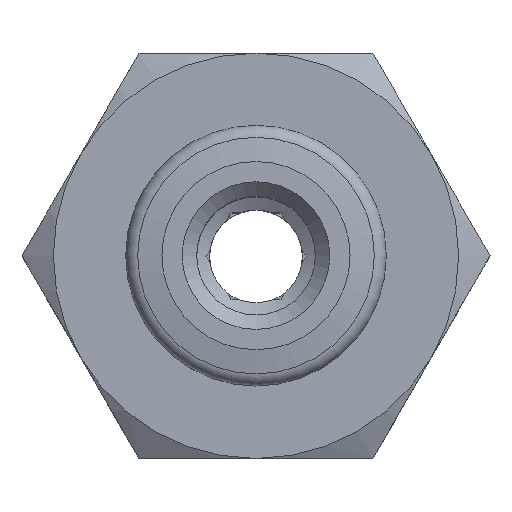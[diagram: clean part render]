
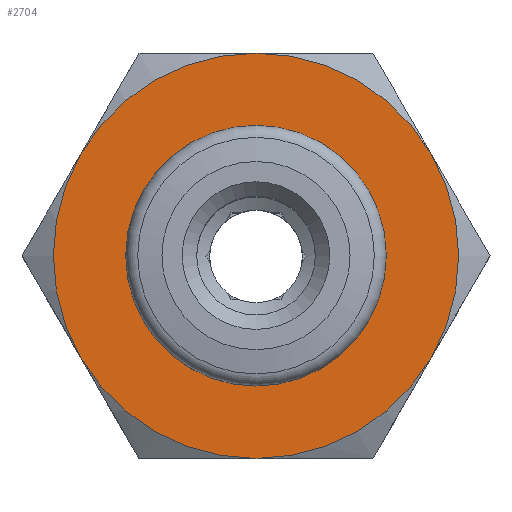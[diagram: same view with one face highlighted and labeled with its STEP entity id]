
A CAD part, top view. The second image highlights one B-rep face of the part: STEP entity #2704.
In plain terms, the highlighted planar face has unit normal (0, 0, 1) as drawn and (0, 1, 0) by its records, which use the part's own axes.
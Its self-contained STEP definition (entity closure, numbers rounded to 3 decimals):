
#1495=ORIENTED_EDGE('',*,*,#1871,.T.);
#1496=ORIENTED_EDGE('',*,*,#1872,.T.);
#1497=ORIENTED_EDGE('',*,*,#1873,.T.);
#1498=ORIENTED_EDGE('',*,*,#1874,.T.);
#1499=ORIENTED_EDGE('',*,*,#1875,.T.);
#1500=ORIENTED_EDGE('',*,*,#1876,.T.);
#1501=ORIENTED_EDGE('',*,*,#1877,.F.);
#1722=CIRCLE('',#2534,7.);
#1723=CIRCLE('',#2536,7.);
#1724=CIRCLE('',#2537,7.);
#1725=CIRCLE('',#2538,7.);
#1726=CIRCLE('',#2539,7.);
#1727=CIRCLE('',#2540,7.);
#1728=CIRCLE('',#2541,4.5);
#1777=VERTEX_POINT('',#2800);
#1778=VERTEX_POINT('',#2804);
#1781=VERTEX_POINT('',#2814);
#1782=VERTEX_POINT('',#2816);
#1783=VERTEX_POINT('',#2818);
#1784=VERTEX_POINT('',#2820);
#1785=VERTEX_POINT('',#2823);
#1871=EDGE_CURVE('',#1778,#1777,#1722,.T.);
#1872=EDGE_CURVE('',#1777,#1781,#1723,.T.);
#1873=EDGE_CURVE('',#1781,#1782,#1724,.T.);
#1874=EDGE_CURVE('',#1782,#1783,#1725,.T.);
#1875=EDGE_CURVE('',#1783,#1784,#1726,.T.);
#1876=EDGE_CURVE('',#1784,#1778,#1727,.T.);
#1877=EDGE_CURVE('',#1785,#1785,#1728,.T.);
#1983=EDGE_LOOP('',(#1495,#1496,#1497,#1498,#1499,#1500));
#1984=EDGE_LOOP('',(#1501));
#2077=FACE_BOUND('',#1983,.T.);
#2078=FACE_BOUND('',#1984,.T.);
#2214=DIRECTION('',(0.,1.,0.));
#2215=DIRECTION('',(0.,0.,7.));
#2216=DIRECTION('',(0.,1.,0.));
#2217=DIRECTION('',(1.,0.,0.));
#2218=DIRECTION('',(0.,1.,0.));
#2219=DIRECTION('',(6.062,0.,3.5));
#2220=DIRECTION('',(0.,1.,0.));
#2221=DIRECTION('',(6.062,0.,-3.5));
#2222=DIRECTION('',(0.,1.,0.));
#2223=DIRECTION('',(0.,0.,-7.));
#2224=DIRECTION('',(0.,1.,0.));
#2225=DIRECTION('',(-6.062,0.,-3.5));
#2226=DIRECTION('',(0.,1.,0.));
#2227=DIRECTION('',(-6.062,0.,3.5));
#2228=DIRECTION('',(0.,1.,0.));
#2229=DIRECTION('',(4.5,0.,0.));
#2534=AXIS2_PLACEMENT_3D('',#2812,#2214,#2215);
#2535=AXIS2_PLACEMENT_3D('',#2813,#2216,#2217);
#2536=AXIS2_PLACEMENT_3D('',#2815,#2218,#2219);
#2537=AXIS2_PLACEMENT_3D('',#2817,#2220,#2221);
#2538=AXIS2_PLACEMENT_3D('',#2819,#2222,#2223);
#2539=AXIS2_PLACEMENT_3D('',#2821,#2224,#2225);
#2540=AXIS2_PLACEMENT_3D('',#2822,#2226,#2227);
#2541=AXIS2_PLACEMENT_3D('',#2824,#2228,#2229);
#2669=PLANE('',#2535);
#2704=ADVANCED_FACE('',(#2077,#2078),#2669,.T.);
#2800=CARTESIAN_POINT('',(6.062,18.5,3.5));
#2804=CARTESIAN_POINT('',(0.,18.5,7.));
#2812=CARTESIAN_POINT('',(0.,18.5,0.));
#2813=CARTESIAN_POINT('',(0.,18.5,7.));
#2814=CARTESIAN_POINT('',(6.062,18.5,-3.5));
#2815=CARTESIAN_POINT('',(0.,18.5,0.));
#2816=CARTESIAN_POINT('',(0.,18.5,-7.));
#2817=CARTESIAN_POINT('',(0.,18.5,0.));
#2818=CARTESIAN_POINT('',(-6.062,18.5,-3.5));
#2819=CARTESIAN_POINT('',(0.,18.5,0.));
#2820=CARTESIAN_POINT('',(-6.062,18.5,3.5));
#2821=CARTESIAN_POINT('',(0.,18.5,0.));
#2822=CARTESIAN_POINT('',(0.,18.5,0.));
#2823=CARTESIAN_POINT('',(4.5,18.5,0.));
#2824=CARTESIAN_POINT('',(0.,18.5,0.));
